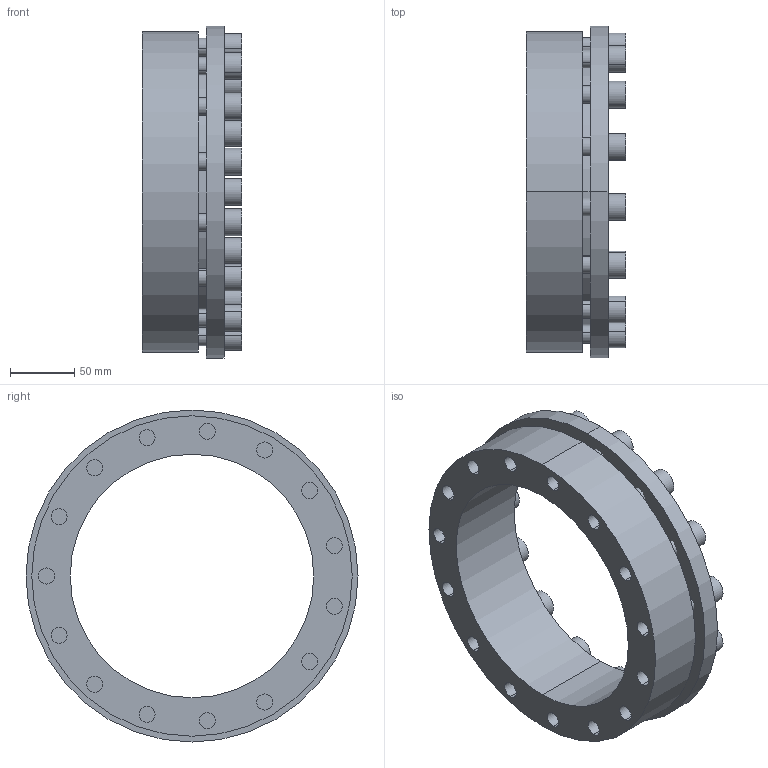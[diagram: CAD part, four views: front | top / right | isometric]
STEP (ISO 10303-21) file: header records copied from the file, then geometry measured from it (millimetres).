
FILE_DESCRIPTION (( 'STEP AP203' ), '1' );
FILE_NAME ('SES-190.step', '2009-09-29T16:40:45', ( 'USER' ), ( 'HOME' ), 'SwSTEP 2.0', 'SolidWorks 2007', '' );
FILE_SCHEMA (( 'CONFIG_CONTROL_DESIGN' ));
Length unit declared in the file: millimetre
Products named in the file (1): SES-190
Bounding box: 78 x 259 x 259 mm (x, y, z)
Volume: 1361761.8 mm3; surface area: 250277.2 mm2
Topology: 16 solids, 16 shells, 282 faces, 654 edges, 436 vertices
Faces by surface type: plane 154, cylinder 128
Entity records: 8265 total; most frequent: DIRECTION 1476, CARTESIAN_POINT 1373, ORIENTED_EDGE 1308, EDGE_CURVE 654, AXIS2_PLACEMENT_3D 539, VERTEX_POINT 436, VECTOR 398, LINE 398
